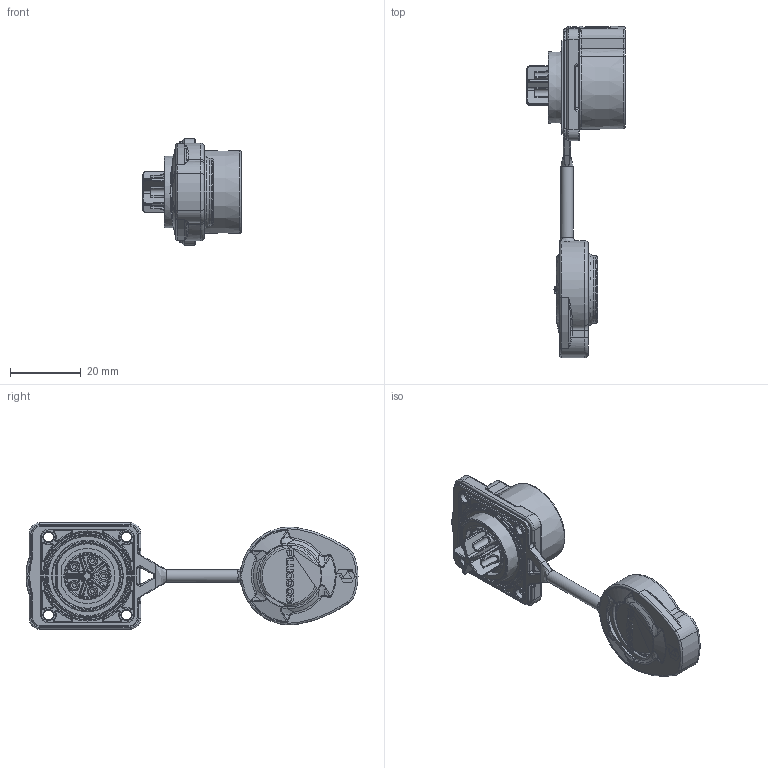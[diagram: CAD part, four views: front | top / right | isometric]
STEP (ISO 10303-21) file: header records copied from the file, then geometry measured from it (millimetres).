
FILE_DESCRIPTION (( 'STEP AP214' ), '1' );
FILE_NAME ('PLG20 5郋侐謂脣釱.STEP', '2025-03-19T12:39:52', ( '' ), ( '' ), 'SwSTEP 2.0', 'SolidWorks 2024', '' );
FILE_SCHEMA (( 'AUTOMOTIVE_DESIGN' ));
Length unit declared in the file: millimetre
Products named in the file (1): PLG20 5芯四孔插座
Bounding box: 27.7 x 93.64 x 30 mm (x, y, z)
Volume: 12139.7 mm3; surface area: 12150.4 mm2
Topology: 1 solids, 9 shells, 1607 faces, 3965 edges, 2424 vertices
Faces by surface type: plane 470, cylinder 418, bspline 351, torus 243, cone 103, sphere 22
Full cylindrical faces by diameter (mm): 1.061 x1, 2.088 x1, 2.15 x5, 2.2 x5, 2.8 x4, 3 x10, 3.3 x4, 3.5 x1, 6 x4, 13.3 x1, 16.5 x1, 19.1 x1, 19.5 x3, 22.3 x1, 23.5 x1, 25 x1
Entity records: 57826 total; most frequent: CARTESIAN_POINT 23316, ORIENTED_EDGE 7610, DIRECTION 6527, EDGE_CURVE 3805, AXIS2_PLACEMENT_3D 2572, VERTEX_POINT 2385, EDGE_LOOP 1792, FACE_OUTER_BOUND 1672
